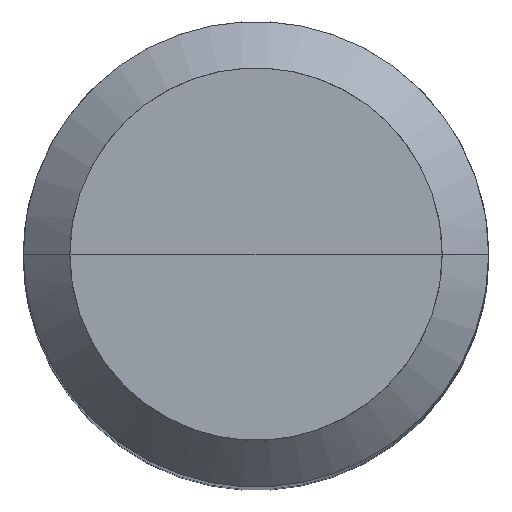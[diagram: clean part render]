
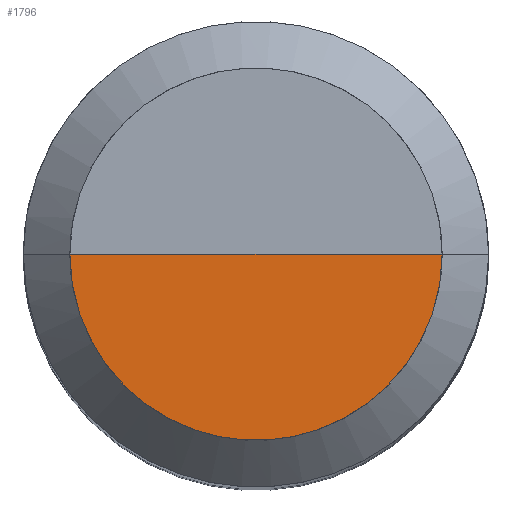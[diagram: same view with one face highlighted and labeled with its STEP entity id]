
A CAD part, top view. The second image highlights one B-rep face of the part: STEP entity #1796.
In plain terms, the highlighted free-form (B-spline) face has degree [1, 2] with [2, 5] control points.
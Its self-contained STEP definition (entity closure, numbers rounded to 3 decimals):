
#1485=CARTESIAN_POINT('',(6.4,0.0,48.0));
#1489=CARTESIAN_POINT('',(-6.4,0.0,48.0));
#1490=CARTESIAN_POINT('',(0.0,0.0,48.0));
#1494=CARTESIAN_POINT('',(-6.4,-6.4,48.0));
#1495=CARTESIAN_POINT('',(0.0,-6.4,48.0));
#1496=CARTESIAN_POINT('',(6.4,-6.4,48.0));
#1781=(
BOUNDED_SURFACE()
B_SPLINE_SURFACE(1,2,(
(#1489,#1494,#1495,#1496,#1485),
(#1490,#1490,#1490,#1490,#1490)
), .UNSPECIFIED.,.F.,.F.,.F.)
B_SPLINE_SURFACE_WITH_KNOTS((2,2),(3,2,3),(
0.0,1.0),(
0.0,0.5,1.0), .UNSPECIFIED.)
GEOMETRIC_REPRESENTATION_ITEM()
RATIONAL_B_SPLINE_SURFACE(((1.0,0.707,1.0,0.707,1.0),
(1.0,0.707,1.0,0.707,1.0)
))
REPRESENTATION_ITEM('')
SURFACE()
);
#1782=(
BOUNDED_CURVE()
B_SPLINE_CURVE(2,(#1485,#1496,#1495,#1494,#1489),.UNSPECIFIED.,.F.,.F.)
B_SPLINE_CURVE_WITH_KNOTS((3,2,3),
(0.0,0.5,1.0),.UNSPECIFIED.)
CURVE()
GEOMETRIC_REPRESENTATION_ITEM()
RATIONAL_B_SPLINE_CURVE((1.0,0.707,1.0,0.707,1.0))
REPRESENTATION_ITEM('')
);
#1783=(
BOUNDED_CURVE()
B_SPLINE_CURVE(1,(#1489,#1490),.UNSPECIFIED.,.F.,.F.)
B_SPLINE_CURVE_WITH_KNOTS((2,2),
(0.0,1.0),.UNSPECIFIED.)
CURVE()
GEOMETRIC_REPRESENTATION_ITEM()
RATIONAL_B_SPLINE_CURVE((1.0,1.0))
REPRESENTATION_ITEM('')
);
#1784=(
BOUNDED_CURVE()
B_SPLINE_CURVE(1,(#1490,#1485),.UNSPECIFIED.,.F.,.F.)
B_SPLINE_CURVE_WITH_KNOTS((2,2),
(0.0,1.0),.UNSPECIFIED.)
CURVE()
GEOMETRIC_REPRESENTATION_ITEM()
RATIONAL_B_SPLINE_CURVE((1.0,1.0))
REPRESENTATION_ITEM('')
);
#1785=VERTEX_POINT('',#1485);
#1786=VERTEX_POINT('',#1489);
#1787=VERTEX_POINT('',#1490);
#1788=EDGE_CURVE('',#1785,#1786,#1782,.T.);
#1789=EDGE_CURVE('',#1786,#1787,#1783,.T.);
#1790=EDGE_CURVE('',#1787,#1785,#1784,.T.);
#1791=ORIENTED_EDGE('',*,*,#1788,.T.);
#1792=ORIENTED_EDGE('',*,*,#1789,.T.);
#1793=ORIENTED_EDGE('',*,*,#1790,.T.);
#1794=EDGE_LOOP('',(#1791,#1792,#1793));
#1795=FACE_OUTER_BOUND('',#1794,.T.);
#1796=ADVANCED_FACE('',(#1795),#1781,.T.);
